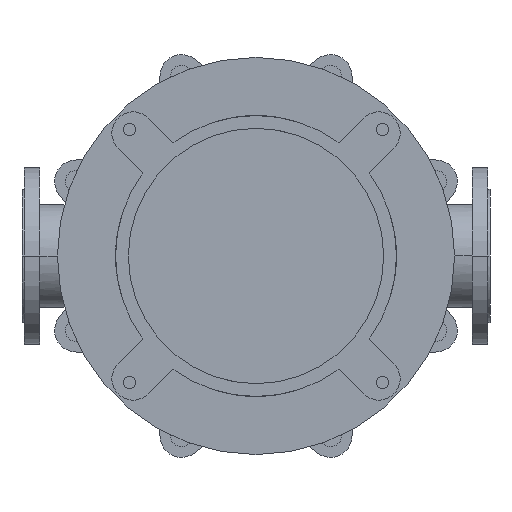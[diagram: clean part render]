
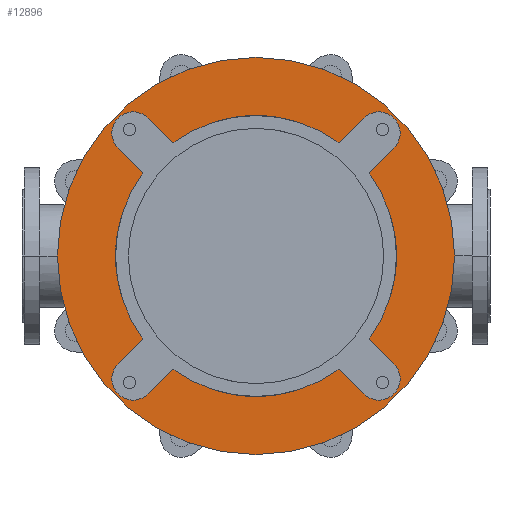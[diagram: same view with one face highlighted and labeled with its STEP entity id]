
A CAD part, front view. The second image highlights one B-rep face of the part: STEP entity #12896.
In plain terms, the highlighted planar face has unit normal (0, -1, 0).
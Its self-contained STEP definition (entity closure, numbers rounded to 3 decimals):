
#2535=CARTESIAN_POINT('',(0.,-25.,0.));
#2536=DIRECTION('',(0.,1.,0.));
#2537=DIRECTION('',(0.592,0.,-0.806));
#2538=AXIS2_PLACEMENT_3D('',#2535,#2536,#2537);
#2553=CARTESIAN_POINT('',(0.,-25.,0.));
#2554=DIRECTION('',(0.,1.,0.));
#2555=DIRECTION('',(0.806,0.,0.592));
#2556=AXIS2_PLACEMENT_3D('',#2553,#2554,#2555);
#2580=CARTESIAN_POINT('',(0.,-25.,0.));
#2581=DIRECTION('',(0.,1.,0.));
#2582=DIRECTION('',(-0.806,0.,-0.592));
#2583=AXIS2_PLACEMENT_3D('',#2580,#2581,#2582);
#2589=CARTESIAN_POINT('',(0.,-25.,0.));
#2590=DIRECTION('',(0.,1.,0.));
#2591=DIRECTION('',(-0.592,0.,0.806));
#2592=AXIS2_PLACEMENT_3D('',#2589,#2590,#2591);
#2767=CARTESIAN_POINT('',(0.,-25.,0.));
#2768=DIRECTION('',(0.,-1.,0.));
#2769=DIRECTION('',(-1.,0.,0.));
#2770=AXIS2_PLACEMENT_3D('',#2767,#2768,#2769);
#2772=CARTESIAN_POINT('',(0.,-25.,0.));
#2773=DIRECTION('',(0.,1.,0.));
#2774=DIRECTION('',(-1.,0.,0.));
#2775=AXIS2_PLACEMENT_3D('',#2772,#2773,#2774);
#2777=CARTESIAN_POINT('',(-173.241,-25.,173.241));
#2778=DIRECTION('',(0.,-1.,0.));
#2779=DIRECTION('',(0.707,0.,0.707));
#2780=AXIS2_PLACEMENT_3D('',#2777,#2778,#2779);
#2782=DIRECTION('',(0.707,0.,-0.707));
#2783=VECTOR('',#2782,49.286);
#2784=CARTESIAN_POINT('',(-194.454,-25.,152.028));
#2785=LINE('',#2784,#2783);
#2786=DIRECTION('',(-0.707,0.,-0.707));
#2787=VECTOR('',#2786,49.286);
#2788=CARTESIAN_POINT('',(-159.604,-25.,-117.178));
#2789=LINE('',#2788,#2787);
#2790=CARTESIAN_POINT('',(-173.241,-25.,-173.241));
#2791=DIRECTION('',(0.,-1.,0.));
#2792=DIRECTION('',(-0.707,0.,0.707));
#2793=AXIS2_PLACEMENT_3D('',#2790,#2791,#2792);
#2795=DIRECTION('',(0.707,0.,0.707));
#2796=VECTOR('',#2795,49.286);
#2797=CARTESIAN_POINT('',(-152.028,-25.,-194.454));
#2798=LINE('',#2797,#2796);
#2799=DIRECTION('',(0.707,0.,-0.707));
#2800=VECTOR('',#2799,49.286);
#2801=CARTESIAN_POINT('',(117.178,-25.,-159.604));
#2802=LINE('',#2801,#2800);
#2803=CARTESIAN_POINT('',(173.241,-25.,-173.241));
#2804=DIRECTION('',(0.,-1.,0.));
#2805=DIRECTION('',(-0.707,0.,-0.707));
#2806=AXIS2_PLACEMENT_3D('',#2803,#2804,#2805);
#2808=DIRECTION('',(-0.707,0.,0.707));
#2809=VECTOR('',#2808,49.286);
#2810=CARTESIAN_POINT('',(194.454,-25.,-152.028));
#2811=LINE('',#2810,#2809);
#2812=DIRECTION('',(0.707,0.,0.707));
#2813=VECTOR('',#2812,49.286);
#2814=CARTESIAN_POINT('',(159.604,-25.,117.178));
#2815=LINE('',#2814,#2813);
#2816=CARTESIAN_POINT('',(173.241,-25.,173.241));
#2817=DIRECTION('',(0.,-1.,0.));
#2818=DIRECTION('',(0.707,0.,-0.707));
#2819=AXIS2_PLACEMENT_3D('',#2816,#2817,#2818);
#2821=DIRECTION('',(-0.707,0.,-0.707));
#2822=VECTOR('',#2821,49.286);
#2823=CARTESIAN_POINT('',(152.028,-25.,194.454));
#2824=LINE('',#2823,#2822);
#2825=DIRECTION('',(-0.707,0.,0.707));
#2826=VECTOR('',#2825,49.286);
#2827=CARTESIAN_POINT('',(-117.178,-25.,159.604));
#2828=LINE('',#2827,#2826);
#8409=CARTESIAN_POINT('',(-280.,-25.,0.));
#8410=CARTESIAN_POINT('',(280.,-25.,0.));
#8411=VERTEX_POINT('',#8409);
#8412=VERTEX_POINT('',#8410);
#8433=CARTESIAN_POINT('',(-194.454,-25.,-152.028));
#8434=CARTESIAN_POINT('',(-152.028,-25.,-194.454));
#8435=VERTEX_POINT('',#8433);
#8436=VERTEX_POINT('',#8434);
#8437=CARTESIAN_POINT('',(-117.178,-25.,-159.604));
#8438=VERTEX_POINT('',#8437);
#8439=CARTESIAN_POINT('',(-159.604,-25.,-117.178));
#8440=VERTEX_POINT('',#8439);
#8449=CARTESIAN_POINT('',(152.028,-25.,-194.454));
#8450=CARTESIAN_POINT('',(194.454,-25.,-152.028));
#8451=VERTEX_POINT('',#8449);
#8452=VERTEX_POINT('',#8450);
#8453=CARTESIAN_POINT('',(159.604,-25.,-117.178));
#8454=VERTEX_POINT('',#8453);
#8455=CARTESIAN_POINT('',(117.178,-25.,-159.604));
#8456=VERTEX_POINT('',#8455);
#8465=CARTESIAN_POINT('',(194.454,-25.,152.028));
#8466=CARTESIAN_POINT('',(152.028,-25.,194.454));
#8467=VERTEX_POINT('',#8465);
#8468=VERTEX_POINT('',#8466);
#8469=CARTESIAN_POINT('',(117.178,-25.,159.604));
#8470=VERTEX_POINT('',#8469);
#8471=CARTESIAN_POINT('',(159.604,-25.,117.178));
#8472=VERTEX_POINT('',#8471);
#8481=CARTESIAN_POINT('',(-152.028,-25.,194.454));
#8482=CARTESIAN_POINT('',(-194.454,-25.,152.028));
#8483=VERTEX_POINT('',#8481);
#8484=VERTEX_POINT('',#8482);
#8485=CARTESIAN_POINT('',(-159.604,-25.,117.178));
#8486=VERTEX_POINT('',#8485);
#8487=CARTESIAN_POINT('',(-117.178,-25.,159.604));
#8488=VERTEX_POINT('',#8487);
#12856=CARTESIAN_POINT('',(0.,-25.,0.));
#12857=DIRECTION('',(0.,-1.,0.));
#12858=DIRECTION('',(-1.,0.,0.));
#12859=AXIS2_PLACEMENT_3D('',#12856,#12857,#12858);
#12860=PLANE('',#12859);
#12862=ORIENTED_EDGE('',*,*,#12861,.F.);
#12864=ORIENTED_EDGE('',*,*,#12863,.T.);
#12865=EDGE_LOOP('',(#12862,#12864));
#12866=FACE_OUTER_BOUND('',#12865,.F.);
#12868=ORIENTED_EDGE('',*,*,#12867,.T.);
#12870=ORIENTED_EDGE('',*,*,#12869,.T.);
#12871=ORIENTED_EDGE('',*,*,#12809,.F.);
#12873=ORIENTED_EDGE('',*,*,#12872,.T.);
#12875=ORIENTED_EDGE('',*,*,#12874,.T.);
#12877=ORIENTED_EDGE('',*,*,#12876,.T.);
#12878=ORIENTED_EDGE('',*,*,#12762,.F.);
#12879=ORIENTED_EDGE('',*,*,#12846,.T.);
#12881=ORIENTED_EDGE('',*,*,#12880,.T.);
#12883=ORIENTED_EDGE('',*,*,#12882,.T.);
#12884=ORIENTED_EDGE('',*,*,#12783,.F.);
#12886=ORIENTED_EDGE('',*,*,#12885,.T.);
#12888=ORIENTED_EDGE('',*,*,#12887,.T.);
#12890=ORIENTED_EDGE('',*,*,#12889,.T.);
#12891=ORIENTED_EDGE('',*,*,#12827,.F.);
#12893=ORIENTED_EDGE('',*,*,#12892,.T.);
#12894=EDGE_LOOP('',(#12868,#12870,#12871,#12873,#12875,#12877,#12878,#12879,
#12881,#12883,#12884,#12886,#12888,#12890,#12891,#12893));
#12895=FACE_BOUND('',#12894,.F.);
#12896=ADVANCED_FACE('',(#12866,#12895),#12860,.T.);
#2539=CIRCLE('',#2538,198.);
#2557=CIRCLE('',#2556,198.);
#2584=CIRCLE('',#2583,198.);
#2593=CIRCLE('',#2592,198.);
#2771=CIRCLE('',#2770,280.);
#2776=CIRCLE('',#2775,280.);
#2781=CIRCLE('',#2780,30.);
#2794=CIRCLE('',#2793,30.);
#2807=CIRCLE('',#2806,30.);
#2820=CIRCLE('',#2819,30.);
#12762=EDGE_CURVE('',#8456,#8438,#2539,.T.);
#12783=EDGE_CURVE('',#8472,#8454,#2557,.T.);
#12809=EDGE_CURVE('',#8440,#8486,#2584,.T.);
#12827=EDGE_CURVE('',#8488,#8470,#2593,.T.);
#12846=EDGE_CURVE('',#8456,#8451,#2802,.T.);
#12861=EDGE_CURVE('',#8411,#8412,#2771,.T.);
#12863=EDGE_CURVE('',#8411,#8412,#2776,.T.);
#12867=EDGE_CURVE('',#8483,#8484,#2781,.T.);
#12869=EDGE_CURVE('',#8484,#8486,#2785,.T.);
#12872=EDGE_CURVE('',#8440,#8435,#2789,.T.);
#12874=EDGE_CURVE('',#8435,#8436,#2794,.T.);
#12876=EDGE_CURVE('',#8436,#8438,#2798,.T.);
#12880=EDGE_CURVE('',#8451,#8452,#2807,.T.);
#12882=EDGE_CURVE('',#8452,#8454,#2811,.T.);
#12885=EDGE_CURVE('',#8472,#8467,#2815,.T.);
#12887=EDGE_CURVE('',#8467,#8468,#2820,.T.);
#12889=EDGE_CURVE('',#8468,#8470,#2824,.T.);
#12892=EDGE_CURVE('',#8488,#8483,#2828,.T.);
